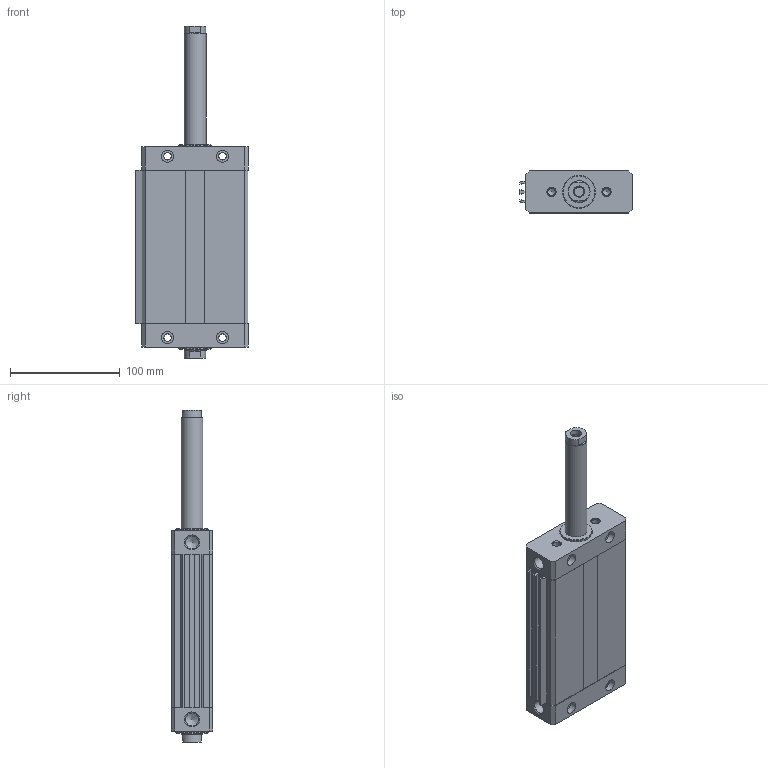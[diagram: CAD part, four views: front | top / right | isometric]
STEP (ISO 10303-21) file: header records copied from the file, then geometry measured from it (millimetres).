
FILE_DESCRIPTION((''),'2;1');
FILE_NAME('I:\Area Tecnica\Disegni\VARIE-3D\Componenti\1370 - CPO\1370_##_0000_03\1370_50_0100_03-01.iam.step','2010-12-16T10:58:31',(''),(''),'Autodesk Inventor 2011','Autodesk Inventor 2011','');
FILE_SCHEMA(('AUTOMOTIVE_DESIGN { 1 0 10303 214 1 1 1 1 }'));
Length unit declared in the file: millimetre
Products named in the file (5): 1370_50_0100_03-01; 1370_05_50_0000; 1370_06_50_0100; 1370_08_50_0000; 1370_3_50_0100
Assembly tree (4 placements, depth 2):
  1370_50_0100_03-01
    1370_05_50_0000
    1370_06_50_0100
    1370_08_50_0000
    1370_3_50_0100
Bounding box: 102.5 x 38 x 302 mm (x, y, z)
Volume: 507665.4 mm3; surface area: 137790 mm2
Topology: 4 solids, 4 shells, 164 faces, 398 edges, 252 vertices
Faces by surface type: plane 94, cylinder 50, cone 20
Full cylindrical faces by diameter (mm): 6.8 x18, 8.5 x2, 10.3 x2, 11 x8, 11.75 x2, 20 x4, 30 x2
Entity records: 4722 total; most frequent: DIRECTION 794, CARTESIAN_POINT 737, ORIENTED_EDGE 652, EDGE_CURVE 326, AXIS2_PLACEMENT_3D 295, EDGE_LOOP 254, VERTEX_POINT 238, VECTOR 204
